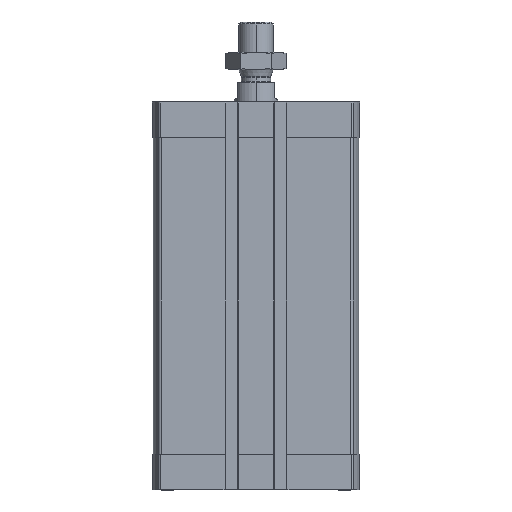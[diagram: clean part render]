
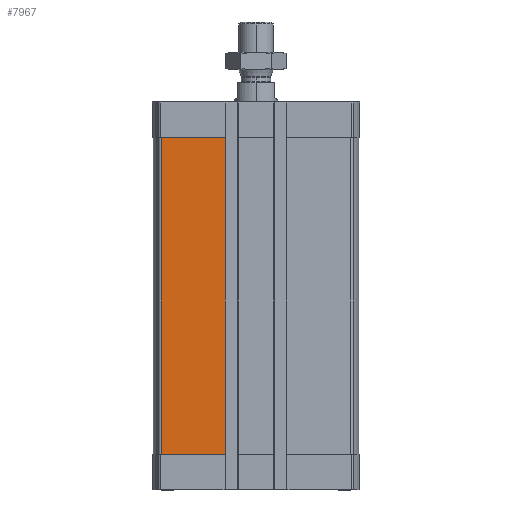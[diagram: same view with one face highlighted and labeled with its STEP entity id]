
A CAD part, left-side view. The second image highlights one B-rep face of the part: STEP entity #7967.
In plain terms, the highlighted planar face has unit normal (-1, 0, 0).
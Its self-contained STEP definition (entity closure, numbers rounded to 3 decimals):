
#2 = DIRECTION ( 'NONE',  ( 0., 0., -1. ) ) ;
#355 = CARTESIAN_POINT ( 'NONE',  ( -47.5, 43.743, -162.5 ) ) ;
#1174 = ORIENTED_EDGE ( 'NONE', *, *, #8814, .T. ) ;
#1377 = DIRECTION ( 'NONE',  ( 0., 1., 0. ) ) ;
#1457 = CARTESIAN_POINT ( 'NONE',  ( -47.5, 0., -16.5 ) ) ;
#1774 = ORIENTED_EDGE ( 'NONE', *, *, #8227, .T. ) ;
#2058 = CARTESIAN_POINT ( 'NONE',  ( -47.5, 14.3, -162.5 ) ) ;
#3046 = VECTOR ( 'NONE', #2, 1000. ) ;
#3331 = DIRECTION ( 'NONE',  ( 0., 0., 1. ) ) ;
#4354 = DIRECTION ( 'NONE',  ( 0., 0., 1. ) ) ;
#4358 = DIRECTION ( 'NONE',  ( -1., 0., 0. ) ) ;
#4380 = CARTESIAN_POINT ( 'NONE',  ( -47.5, 43.743, -162.5 ) ) ;
#4447 = CARTESIAN_POINT ( 'NONE',  ( -47.5, 43.743, -162.5 ) ) ;
#4633 = PLANE ( 'NONE',  #7619 ) ;
#4844 = EDGE_LOOP ( 'NONE', ( #1174, #6380, #1774, #12938 ) ) ;
#4905 = VERTEX_POINT ( 'NONE', #14989 ) ;
#5067 = LINE ( 'NONE', #355, #3046 ) ;
#5337 = VECTOR ( 'NONE', #15420, 1000. ) ;
#5569 = VERTEX_POINT ( 'NONE', #14414 ) ;
#6134 = VECTOR ( 'NONE', #1377, 1000. ) ;
#6380 = ORIENTED_EDGE ( 'NONE', *, *, #15767, .T. ) ;
#7619 = AXIS2_PLACEMENT_3D ( 'NONE', #4447, #4358, #4354 ) ;
#7967 = ADVANCED_FACE ( 'NONE', ( #13766 ), #4633, .T. ) ;
#8227 = EDGE_CURVE ( 'NONE', #5569, #4905, #15879, .T. ) ;
#8814 = EDGE_CURVE ( 'NONE', #12601, #12331, #12001, .T. ) ;
#9691 = VECTOR ( 'NONE', #3331, 1000. ) ;
#10134 = CARTESIAN_POINT ( 'NONE',  ( -47.5, 14.3, -162.5 ) ) ;
#11690 = EDGE_CURVE ( 'NONE', #4905, #12601, #5067, .T. ) ;
#12001 = LINE ( 'NONE', #15777, #5337 ) ;
#12331 = VERTEX_POINT ( 'NONE', #10134 ) ;
#12601 = VERTEX_POINT ( 'NONE', #4380 ) ;
#12938 = ORIENTED_EDGE ( 'NONE', *, *, #11690, .T. ) ;
#13766 = FACE_OUTER_BOUND ( 'NONE', #4844, .T. ) ;
#14414 = CARTESIAN_POINT ( 'NONE',  ( -47.5, 14.3, -16.5 ) ) ;
#14989 = CARTESIAN_POINT ( 'NONE',  ( -47.5, 43.743, -16.5 ) ) ;
#15420 = DIRECTION ( 'NONE',  ( 0., -1., 0. ) ) ;
#15767 = EDGE_CURVE ( 'NONE', #12331, #5569, #16027, .T. ) ;
#15777 = CARTESIAN_POINT ( 'NONE',  ( -47.5, 43.743, -162.5 ) ) ;
#15879 = LINE ( 'NONE', #1457, #6134 ) ;
#16027 = LINE ( 'NONE', #2058, #9691 ) ;
